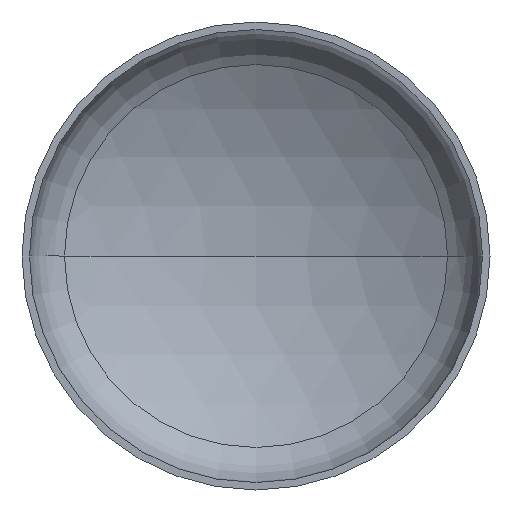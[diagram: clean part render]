
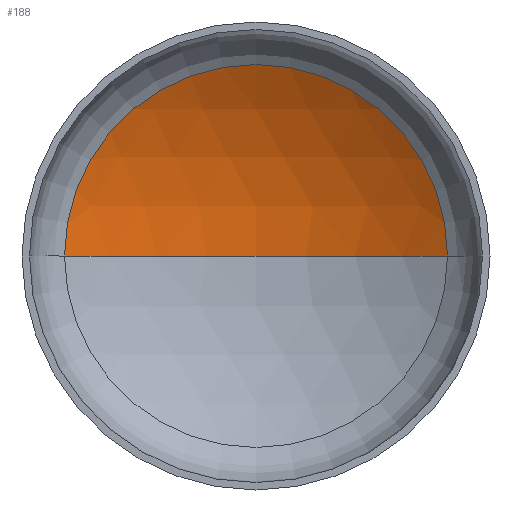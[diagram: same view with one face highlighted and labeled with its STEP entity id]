
A CAD part, front view. The second image highlights one B-rep face of the part: STEP entity #188.
In plain terms, the highlighted spherical face has radius 1200 mm.
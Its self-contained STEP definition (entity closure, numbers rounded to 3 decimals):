
#7 = EDGE_LOOP ( 'NONE', ( #307, #41, #35 ) ) ;
#12 = AXIS2_PLACEMENT_3D ( 'NONE', #196, #292, #88 ) ;
#30 = VERTEX_POINT ( 'NONE', #253 ) ;
#35 = ORIENTED_EDGE ( 'NONE', *, *, #138, .T. ) ;
#41 = ORIENTED_EDGE ( 'NONE', *, *, #140, .T. ) ;
#50 = AXIS2_PLACEMENT_3D ( 'NONE', #270, #150, #239 ) ;
#60 = AXIS2_PLACEMENT_3D ( 'NONE', #189, #198, #199 ) ;
#66 = AXIS2_PLACEMENT_3D ( 'NONE', #341, #293, #80 ) ;
#80 = DIRECTION ( 'NONE',  ( 1., 0., 0. ) ) ;
#88 = DIRECTION ( 'NONE',  ( 1., 0., 0. ) ) ;
#92 = VERTEX_POINT ( 'NONE', #218 ) ;
#126 = VERTEX_POINT ( 'NONE', #321 ) ;
#138 = EDGE_CURVE ( 'NONE', #126, #30, #397, .T. ) ;
#140 = EDGE_CURVE ( 'NONE', #92, #126, #338, .T. ) ;
#150 = DIRECTION ( 'NONE',  ( 0., 0., -1. ) ) ;
#188 = ADVANCED_FACE ( 'NONE', ( #277 ), #269, .F. ) ;
#189 = CARTESIAN_POINT ( 'NONE',  ( 0., -758.597, 0. ) ) ;
#196 = CARTESIAN_POINT ( 'NONE',  ( 0., -758.597, 0. ) ) ;
#198 = DIRECTION ( 'NONE',  ( 0., 0., -1. ) ) ;
#199 = DIRECTION ( 'NONE',  ( -1., 0., 0. ) ) ;
#218 = CARTESIAN_POINT ( 'NONE',  ( 0., 441.403, 0. ) ) ;
#239 = DIRECTION ( 'NONE',  ( -1., 0., 0. ) ) ;
#241 = CIRCLE ( 'NONE', #12, 1200. ) ;
#253 = CARTESIAN_POINT ( 'NONE',  ( -613.608, 272.657, 0. ) ) ;
#269 = SPHERICAL_SURFACE ( 'NONE', #50, 1200. ) ;
#270 = CARTESIAN_POINT ( 'NONE',  ( 0., -758.597, 0. ) ) ;
#277 = FACE_OUTER_BOUND ( 'NONE', #7, .T. ) ;
#292 = DIRECTION ( 'NONE',  ( 0., 0., 1. ) ) ;
#293 = DIRECTION ( 'NONE',  ( 0., -1., 0. ) ) ;
#307 = ORIENTED_EDGE ( 'NONE', *, *, #358, .F. ) ;
#321 = CARTESIAN_POINT ( 'NONE',  ( 613.608, 272.657, 0. ) ) ;
#338 = CIRCLE ( 'NONE', #60, 1200. ) ;
#341 = CARTESIAN_POINT ( 'NONE',  ( 0., 272.657, 0. ) ) ;
#358 = EDGE_CURVE ( 'NONE', #92, #30, #241, .T. ) ;
#397 = CIRCLE ( 'NONE', #66, 613.608 ) ;
